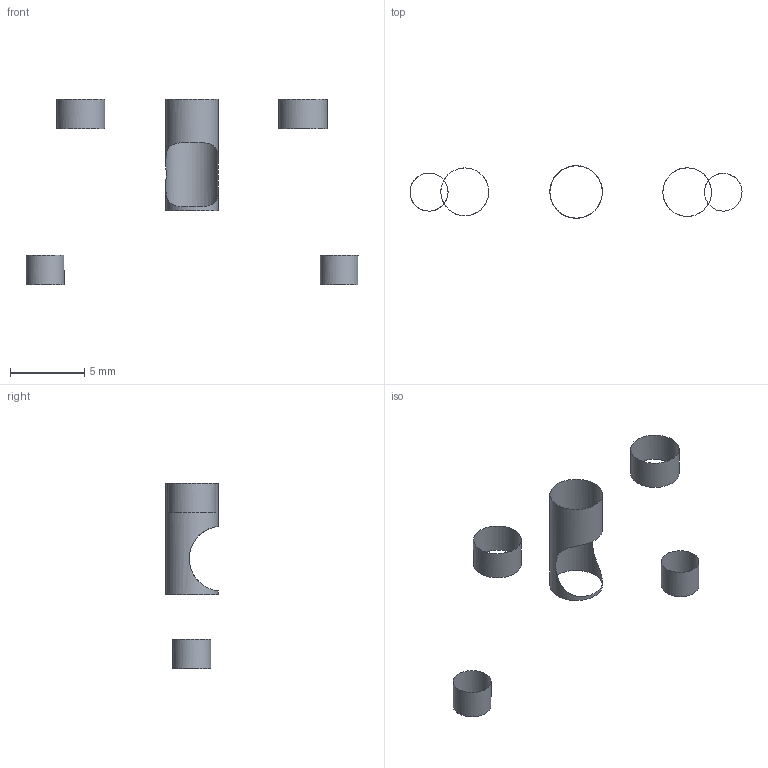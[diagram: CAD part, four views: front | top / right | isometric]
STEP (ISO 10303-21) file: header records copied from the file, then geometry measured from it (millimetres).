
FILE_DESCRIPTION(/* description */ ('STEP AP242 Edition 2','CAx-IF Rec.Pracs.---Representation and Presentation of Product Manufacturing Information (PMI)---4.0---2014-10-13','CAx-IF Rec.Pracs.---3D Tessellated Geometry---0.4---2014-09-14','2;1','CAx-IF Rec.Pracs.---User Defined Attributes---1.5---2016-08-15'),/* implementation_level */ '2;1');
FILE_NAME(/* name */ 'Main Assembly - Part 1 (2)',/* time_stamp */ '2026-06-22T17:37:58Z',/* author */ (''),/* organization */ (''),/* preprocessor_version */ 'ST-DEVELOPER v20',/* originating_system */ 'ONSHAPE BY PTC INC, 1.216',/* authorisation */ ' ');
FILE_SCHEMA (('AP242_MANAGED_MODEL_BASED_3D_ENGINEERING_MIM_LF { 1 0 10303 442 3 1 4 }'));
Length unit declared in the file: metre
Products named in the file (1): Part 1
Bounding box: 22.38 x 3.54 x 12.5 mm (x, y, z)
Surface area: 135 mm2 (no closed solid volume)
Topology: 0 solids, 5 shells, 5 faces, 24 edges, 18 vertices
Faces by surface type: cylinder 5
Full cylindrical faces by diameter (mm): 2.539 x1, 2.564 x1, 3.227 x1, 3.275 x1, 3.537 x1
Entity records: 318 total; most frequent: CARTESIAN_POINT 126, DIRECTION 16, ORIENTED_EDGE 11, EDGE_CURVE 11, VERTEX_POINT 11, EDGE_LOOP 11, FACE_BOUND 11, B_SPLINE_CURVE_WITH_KNOTS 9
